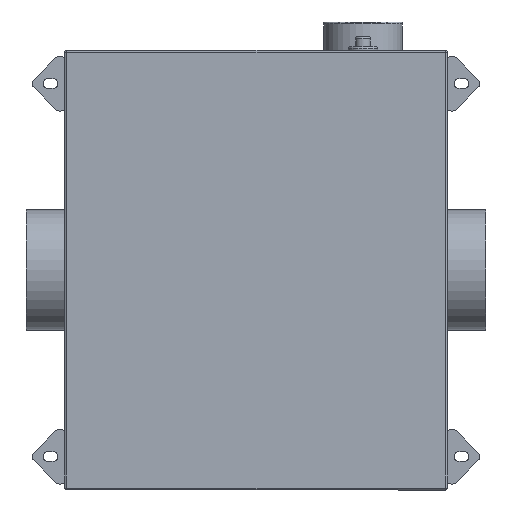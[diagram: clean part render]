
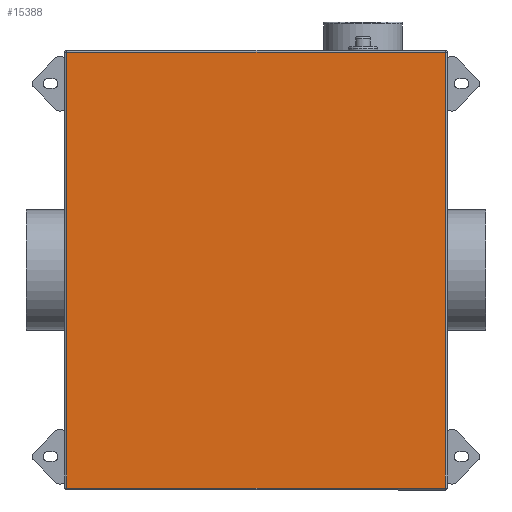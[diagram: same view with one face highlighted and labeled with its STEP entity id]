
A CAD part, left-side view. The second image highlights one B-rep face of the part: STEP entity #15388.
In plain terms, the highlighted planar face has unit normal (-1, 0, 0).
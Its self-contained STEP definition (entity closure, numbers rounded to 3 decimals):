
#1542=FACE_OUTER_BOUND('',#2411,.T.);
#2411=EDGE_LOOP('',(#13937,#13938,#13939,#13940));
#3722=LINE('',#31989,#5039);
#3728=LINE('',#32018,#5045);
#3730=LINE('',#32021,#5047);
#3732=LINE('',#32024,#5049);
#5039=VECTOR('',#18556,10.);
#5045=VECTOR('',#18588,10.);
#5047=VECTOR('',#18592,10.);
#5049=VECTOR('',#18596,10.);
#7260=VERTEX_POINT('',#31964);
#7265=VERTEX_POINT('',#31977);
#7270=VERTEX_POINT('',#31993);
#7275=VERTEX_POINT('',#32006);
#9497=EDGE_CURVE('',#7260,#7265,#3722,.T.);
#9511=EDGE_CURVE('',#7265,#7275,#3728,.T.);
#9513=EDGE_CURVE('',#7275,#7270,#3730,.T.);
#9515=EDGE_CURVE('',#7270,#7260,#3732,.T.);
#13937=ORIENTED_EDGE('',*,*,#9497,.F.);
#13938=ORIENTED_EDGE('',*,*,#9515,.F.);
#13939=ORIENTED_EDGE('',*,*,#9513,.F.);
#13940=ORIENTED_EDGE('',*,*,#9511,.F.);
#14339=PLANE('',#16036);
#15388=ADVANCED_FACE('',(#1542),#14339,.T.);
#16036=AXIS2_PLACEMENT_3D('',#32030,#18604,#18605);
#18556=DIRECTION('',(0.,0.,1.));
#18588=DIRECTION('',(0.,-1.,0.));
#18592=DIRECTION('',(0.,0.,-1.));
#18596=DIRECTION('',(0.,1.,0.));
#18604=DIRECTION('center_axis',(-1.,0.,0.));
#18605=DIRECTION('ref_axis',(0.,0.,
1.));
#31964=CARTESIAN_POINT('',(317.035,914.886,-72.019));
#31977=CARTESIAN_POINT('',(317.035,914.886,369.981));
#31989=CARTESIAN_POINT('',(317.035,914.886,260.481));
#31993=CARTESIAN_POINT('',(317.035,530.886,-72.019));
#32006=CARTESIAN_POINT('',(317.035,530.886,369.981));
#32018=CARTESIAN_POINT('',(317.035,625.886,369.981));
#32021=CARTESIAN_POINT('',(317.035,530.886,37.481));
#32024=CARTESIAN_POINT('',(317.035,819.886,-72.019));
#32030=CARTESIAN_POINT('Origin',(317.035,722.886,148.981));
